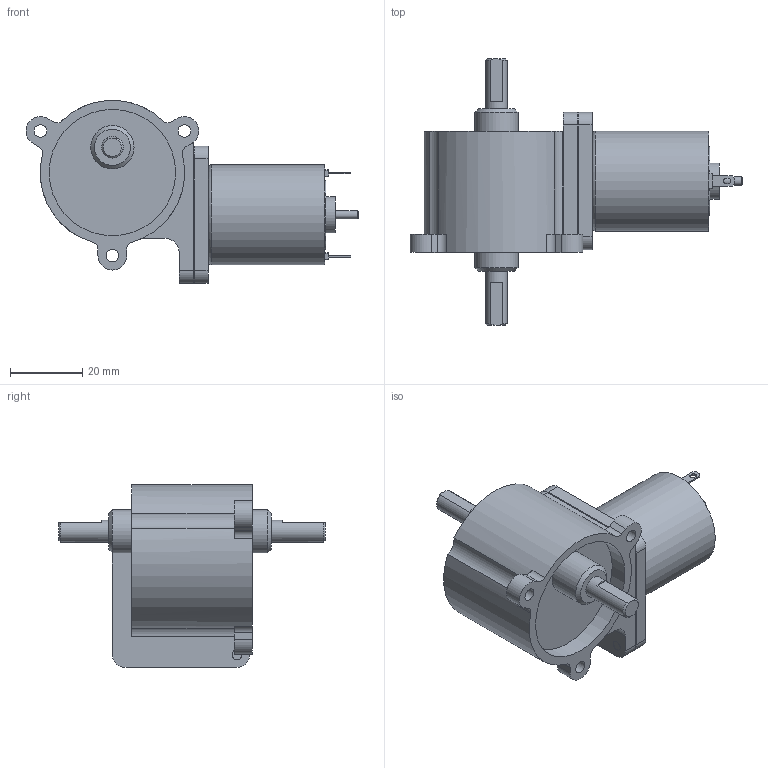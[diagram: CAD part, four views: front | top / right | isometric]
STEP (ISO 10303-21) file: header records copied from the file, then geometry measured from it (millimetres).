
FILE_DESCRIPTION((''),'2;1');
FILE_NAME('C:\Documents and Settings\SSEGAWA\デスクトップ\TP-2732D-KWR.STP','2013-07-01T16:08:57',('SSEGAWA'),(''),'Autodesk Inventor 2010','Autodesk Inventor 2010','');
FILE_SCHEMA(('CONFIG_CONTROL_DESIGN'));
Length unit declared in the file: millimetre
Products named in the file (3): tp_2732def_kwr; kwr; tp_2732d,e,f
Assembly tree (2 placements, depth 2):
  tp_2732def_kwr
    kwr
    tp_2732d,e,f
Bounding box: 91.92 x 73.9 x 50.63 mm (x, y, z)
Volume: 72100.5 mm3; surface area: 16285.3 mm2
Topology: 2 solids, 2 shells, 206 faces, 478 edges, 309 vertices
Faces by surface type: plane 114, cylinder 60, bspline 24, cone 4, torus 4
Full cylindrical faces by diameter (mm): 2 x2, 2.305 x2, 2.5 x5, 6 x2, 9 x2, 10 x3, 12 x2, 19 x1, 26.7 x1, 27.7 x1, 35 x1
Entity records: 5838 total; most frequent: CARTESIAN_POINT 1201, DIRECTION 965, ORIENTED_EDGE 858, EDGE_CURVE 429, AXIS2_PLACEMENT_3D 353, VERTEX_POINT 299, EDGE_LOOP 288, VECTOR 259
